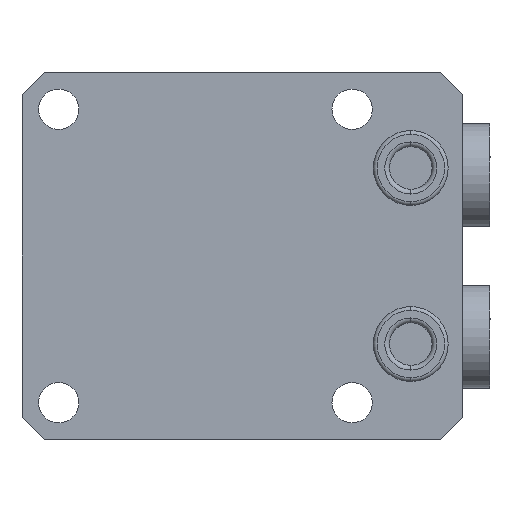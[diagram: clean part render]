
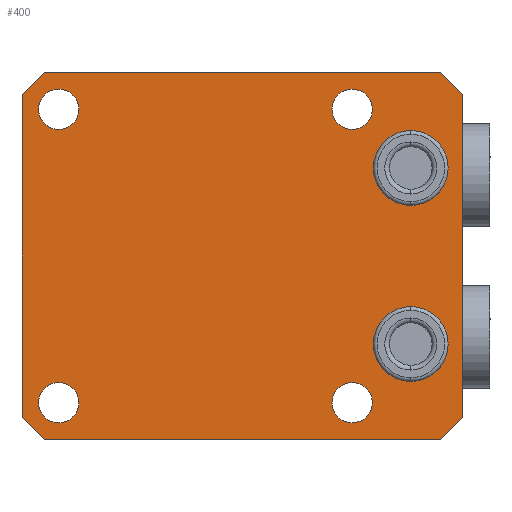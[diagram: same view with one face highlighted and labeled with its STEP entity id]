
A CAD part, front view. The second image highlights one B-rep face of the part: STEP entity #400.
In plain terms, the highlighted planar face has unit normal (0, -1, 0).
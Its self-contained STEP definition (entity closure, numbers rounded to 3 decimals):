
#400=ADVANCED_FACE('',(#956,#957,#958,#959,#960,#961,#962),#539,.F.);
#539=PLANE('',#2686);
#597=LINE('',#3721,#749);
#621=LINE('',#3918,#773);
#622=LINE('',#3921,#774);
#623=LINE('',#3923,#775);
#624=LINE('',#3925,#776);
#625=LINE('',#3926,#777);
#626=LINE('',#3928,#778);
#627=LINE('',#3930,#779);
#749=VECTOR('',#2936,1.);
#773=VECTOR('',#3082,1.);
#774=VECTOR('',#3083,1.);
#775=VECTOR('',#3084,1.);
#776=VECTOR('',#3085,1.);
#777=VECTOR('',#3086,1.);
#778=VECTOR('',#3087,1.);
#779=VECTOR('',#3088,1.);
#956=FACE_BOUND('',#1015,.T.);
#957=FACE_BOUND('',#1016,.T.);
#958=FACE_BOUND('',#1017,.T.);
#959=FACE_BOUND('',#1018,.T.);
#960=FACE_BOUND('',#1019,.T.);
#961=FACE_BOUND('',#1020,.T.);
#962=FACE_BOUND('',#1021,.T.);
#1015=EDGE_LOOP('',(#1257,#1258,#1259,#1260,#1261,#1262,#1263,#1264));
#1016=EDGE_LOOP('',(#1265,#1266));
#1017=EDGE_LOOP('',(#1267,#1268));
#1018=EDGE_LOOP('',(#1269,#1270));
#1019=EDGE_LOOP('',(#1271,#1272));
#1020=EDGE_LOOP('',(#1273,#1274));
#1021=EDGE_LOOP('',(#1275,#1276));
#1257=ORIENTED_EDGE('',*,*,#2190,.F.);
#1258=ORIENTED_EDGE('',*,*,#2191,.T.);
#1259=ORIENTED_EDGE('',*,*,#2192,.F.);
#1260=ORIENTED_EDGE('',*,*,#2193,.T.);
#1261=ORIENTED_EDGE('',*,*,#2113,.F.);
#1262=ORIENTED_EDGE('',*,*,#2194,.T.);
#1263=ORIENTED_EDGE('',*,*,#2195,.F.);
#1264=ORIENTED_EDGE('',*,*,#2196,.T.);
#1265=ORIENTED_EDGE('',*,*,#2162,.F.);
#1266=ORIENTED_EDGE('',*,*,#2197,.F.);
#1267=ORIENTED_EDGE('',*,*,#2158,.F.);
#1268=ORIENTED_EDGE('',*,*,#2198,.F.);
#1269=ORIENTED_EDGE('',*,*,#2170,.F.);
#1270=ORIENTED_EDGE('',*,*,#2199,.F.);
#1271=ORIENTED_EDGE('',*,*,#2174,.F.);
#1272=ORIENTED_EDGE('',*,*,#2200,.F.);
#1273=ORIENTED_EDGE('',*,*,#2201,.F.);
#1274=ORIENTED_EDGE('',*,*,#2156,.F.);
#1275=ORIENTED_EDGE('',*,*,#2136,.T.);
#1276=ORIENTED_EDGE('',*,*,#2202,.T.);
#1891=VERTEX_POINT('',#3720);
#1892=VERTEX_POINT('',#3722);
#1909=VERTEX_POINT('',#3767);
#1910=VERTEX_POINT('',#3769);
#1923=VERTEX_POINT('',#3806);
#1924=VERTEX_POINT('',#3808);
#1925=VERTEX_POINT('',#3812);
#1926=VERTEX_POINT('',#3813);
#1929=VERTEX_POINT('',#3821);
#1930=VERTEX_POINT('',#3822);
#1937=VERTEX_POINT('',#3844);
#1938=VERTEX_POINT('',#3845);
#1941=VERTEX_POINT('',#3853);
#1942=VERTEX_POINT('',#3854);
#1957=VERTEX_POINT('',#3919);
#1958=VERTEX_POINT('',#3920);
#1959=VERTEX_POINT('',#3922);
#1960=VERTEX_POINT('',#3924);
#1961=VERTEX_POINT('',#3927);
#1962=VERTEX_POINT('',#3929);
#2113=EDGE_CURVE('',#1891,#1892,#597,.T.);
#2136=EDGE_CURVE('',#1910,#1909,#2483,.T.);
#2156=EDGE_CURVE('',#1923,#1924,#2499,.T.);
#2158=EDGE_CURVE('',#1925,#1926,#2500,.T.);
#2162=EDGE_CURVE('',#1929,#1930,#2502,.T.);
#2170=EDGE_CURVE('',#1937,#1938,#2505,.T.);
#2174=EDGE_CURVE('',#1941,#1942,#2507,.T.);
#2190=EDGE_CURVE('',#1957,#1958,#621,.T.);
#2191=EDGE_CURVE('',#1957,#1959,#622,.T.);
#2192=EDGE_CURVE('',#1960,#1959,#623,.T.);
#2193=EDGE_CURVE('',#1960,#1892,#624,.T.);
#2194=EDGE_CURVE('',#1891,#1961,#625,.T.);
#2195=EDGE_CURVE('',#1962,#1961,#626,.T.);
#2196=EDGE_CURVE('',#1962,#1958,#627,.T.);
#2197=EDGE_CURVE('',#1930,#1929,#2510,.T.);
#2198=EDGE_CURVE('',#1926,#1925,#2511,.T.);
#2199=EDGE_CURVE('',#1938,#1937,#2512,.T.);
#2200=EDGE_CURVE('',#1942,#1941,#2513,.T.);
#2201=EDGE_CURVE('',#1924,#1923,#2514,.T.);
#2202=EDGE_CURVE('',#1909,#1910,#2515,.T.);
#2483=CIRCLE('',#2641,5.1);
#2499=CIRCLE('',#2662,5.1);
#2500=CIRCLE('',#2664,2.75);
#2502=CIRCLE('',#2667,2.75);
#2505=CIRCLE('',#2672,2.75);
#2507=CIRCLE('',#2675,2.75);
#2510=CIRCLE('',#2680,2.75);
#2511=CIRCLE('',#2681,2.75);
#2512=CIRCLE('',#2682,2.75);
#2513=CIRCLE('',#2683,2.75);
#2514=CIRCLE('',#2684,5.1);
#2515=CIRCLE('',#2685,5.1);
#2641=AXIS2_PLACEMENT_3D('',#3768,#2987,#2988);
#2662=AXIS2_PLACEMENT_3D('',#3807,#3033,#3034);
#2664=AXIS2_PLACEMENT_3D('',#3811,#3038,#3039);
#2667=AXIS2_PLACEMENT_3D('',#3820,#3046,#3047);
#2672=AXIS2_PLACEMENT_3D('',#3843,#3060,#3061);
#2675=AXIS2_PLACEMENT_3D('',#3852,#3068,#3069);
#2680=AXIS2_PLACEMENT_3D('',#3931,#3089,#3090);
#2681=AXIS2_PLACEMENT_3D('',#3932,#3091,#3092);
#2682=AXIS2_PLACEMENT_3D('',#3933,#3093,#3094);
#2683=AXIS2_PLACEMENT_3D('',#3934,#3095,#3096);
#2684=AXIS2_PLACEMENT_3D('',#3935,#3097,#3098);
#2685=AXIS2_PLACEMENT_3D('',#3936,#3099,#3100);
#2686=AXIS2_PLACEMENT_3D('',#3937,#3101,#3102);
#2936=DIRECTION('',(0.,0.,-1.));
#2987=DIRECTION('',(0.,1.,0.));
#2988=DIRECTION('',(0.,0.,1.));
#3033=DIRECTION('',(0.,-1.,0.));
#3034=DIRECTION('',(0.,0.,-1.));
#3038=DIRECTION('',(0.,-1.,0.));
#3039=DIRECTION('',(0.,0.,1.));
#3046=DIRECTION('',(0.,-1.,0.));
#3047=DIRECTION('',(0.,0.,1.));
#3060=DIRECTION('',(0.,-1.,0.));
#3061=DIRECTION('',(0.,0.,1.));
#3068=DIRECTION('',(0.,-1.,0.));
#3069=DIRECTION('',(0.,0.,1.));
#3082=DIRECTION('',(0.,0.,1.));
#3083=DIRECTION('',(0.707,0.,-0.707));
#3084=DIRECTION('',(-1.,0.,0.));
#3085=DIRECTION('',(0.707,0.,0.707));
#3086=DIRECTION('',(-0.707,0.,0.707));
#3087=DIRECTION('',(1.,0.,0.));
#3088=DIRECTION('',(-0.707,0.,-0.707));
#3089=DIRECTION('',(0.,-1.,0.));
#3090=DIRECTION('',(0.,0.,1.));
#3091=DIRECTION('',(0.,-1.,0.));
#3092=DIRECTION('',(0.,0.,1.));
#3093=DIRECTION('',(0.,-1.,0.));
#3094=DIRECTION('',(0.,0.,1.));
#3095=DIRECTION('',(0.,-1.,0.));
#3096=DIRECTION('',(0.,0.,1.));
#3097=DIRECTION('',(0.,-1.,0.));
#3098=DIRECTION('',(0.,0.,-1.));
#3099=DIRECTION('',(0.,1.,0.));
#3100=DIRECTION('',(0.,0.,1.));
#3101=DIRECTION('',(0.,1.,0.));
#3102=DIRECTION('',(0.,0.,-1.));
#3720=CARTESIAN_POINT('',(35.,0.,22.));
#3721=CARTESIAN_POINT('',(35.,0.,-25.));
#3722=CARTESIAN_POINT('',(35.,0.,-22.));
#3767=CARTESIAN_POINT('',(28.,0.,17.1));
#3768=CARTESIAN_POINT('',(28.,0.,12.));
#3769=CARTESIAN_POINT('',(28.,0.,6.9));
#3806=CARTESIAN_POINT('',(28.,0.,-6.9));
#3807=CARTESIAN_POINT('',(28.,0.,-12.));
#3808=CARTESIAN_POINT('',(28.,0.,-17.1));
#3811=CARTESIAN_POINT('',(-20.,0.,-20.));
#3812=CARTESIAN_POINT('',(-20.,0.,-17.25));
#3813=CARTESIAN_POINT('',(-20.,0.,-22.75));
#3820=CARTESIAN_POINT('',(20.,0.,-20.));
#3821=CARTESIAN_POINT('',(20.,0.,-17.25));
#3822=CARTESIAN_POINT('',(20.,0.,-22.75));
#3843=CARTESIAN_POINT('',(20.,0.,20.));
#3844=CARTESIAN_POINT('',(20.,0.,22.75));
#3845=CARTESIAN_POINT('',(20.,0.,17.25));
#3852=CARTESIAN_POINT('',(-20.,0.,20.));
#3853=CARTESIAN_POINT('',(-20.,0.,22.75));
#3854=CARTESIAN_POINT('',(-20.,0.,17.25));
#3918=CARTESIAN_POINT('',(-25.,0.,-25.));
#3919=CARTESIAN_POINT('',(-25.,0.,-22.));
#3920=CARTESIAN_POINT('',(-25.,0.,22.));
#3921=CARTESIAN_POINT('',(-25.,0.,-22.));
#3922=CARTESIAN_POINT('',(-22.,0.,-25.));
#3923=CARTESIAN_POINT('',(-25.,0.,-25.));
#3924=CARTESIAN_POINT('',(32.,0.,-25.));
#3925=CARTESIAN_POINT('',(32.,0.,-25.));
#3926=CARTESIAN_POINT('',(35.,0.,22.));
#3927=CARTESIAN_POINT('',(32.,0.,25.));
#3928=CARTESIAN_POINT('',(-25.,0.,25.));
#3929=CARTESIAN_POINT('',(-22.,0.,25.));
#3930=CARTESIAN_POINT('',(-22.,0.,25.));
#3931=CARTESIAN_POINT('',(20.,0.,-20.));
#3932=CARTESIAN_POINT('',(-20.,0.,-20.));
#3933=CARTESIAN_POINT('',(20.,0.,20.));
#3934=CARTESIAN_POINT('',(-20.,0.,20.));
#3935=CARTESIAN_POINT('',(28.,0.,-12.));
#3936=CARTESIAN_POINT('',(28.,0.,12.));
#3937=CARTESIAN_POINT('',(-25.,0.,25.));
